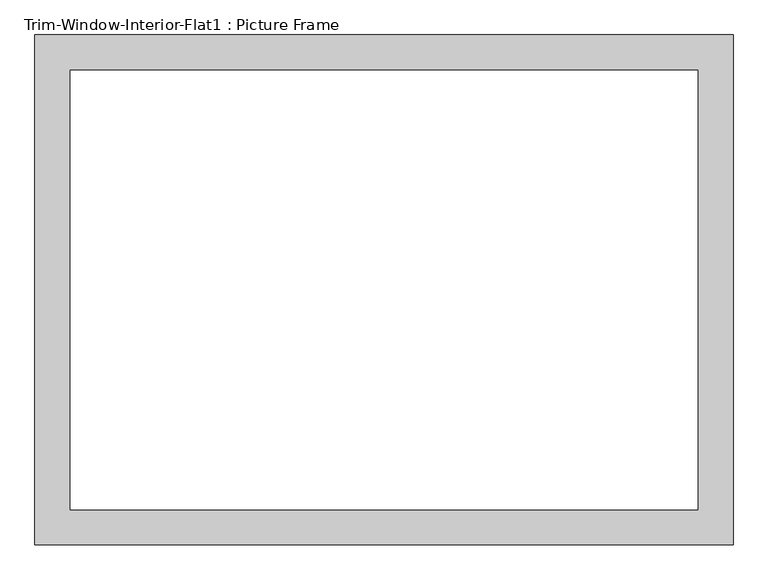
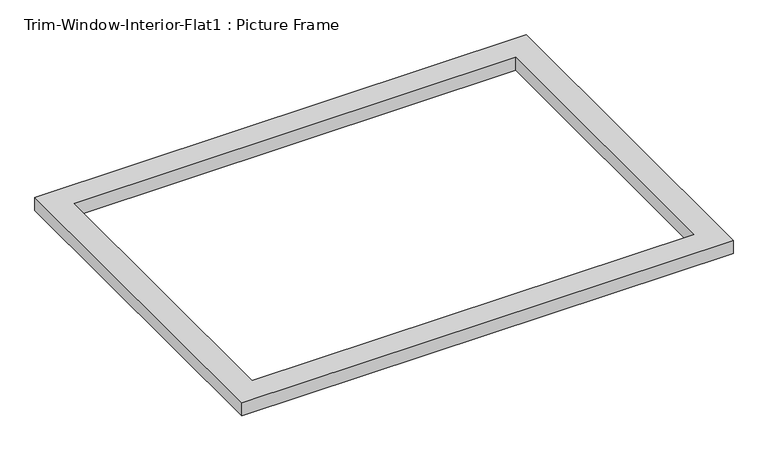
"""IFC4 building model written with IfcOpenShell, lengths in millimetres: proxy geometry, Trim-Window-Interior-Flat1 : Picture Frame."""

from ifc_helpers import new_model, si_unit, origin, origin_with_axes, place, context, project, spatial, polyline, outline, extrude, source, transform, mapped, element, save


def trim_window_interior_flat1_picture_frame_47f21718(model_context):
    return source(origin(), model_context, "Body", "SweptSolid", [
        extrude(outline(polyline([(565.15, -44.45), (-565.15, -44.45), (-565.15, 781.05), (565.15, 781.05), (565.15, -44.45)]), holes=[polyline([(508.0, 12.7), (508.0, 723.9), (-508.0, 723.9), (-508.0, 12.7), (508.0, 12.7)])]), origin_with_axes(), (0.0, 0.0, 1.0), 31.75),
    ])


if __name__ == "__main__":
    model = new_model("IFC4")
    model_context = context("Model", 3, world=origin())
    ifc_project = project(units=[si_unit("LENGTHUNIT", "METRE", prefix="MILLI")], contexts=[model_context])
    site = spatial("IfcSite", under=ifc_project)
    building = spatial("IfcBuilding", under=site)
    placement = place(None, origin())
    trim_window_interior_flat1_picture_frame_shape = trim_window_interior_flat1_picture_frame_47f21718(model_context)
    element("IfcBuildingElementProxy", 1, Name="Trim-Window-Interior-Flat1 : Picture Frame", ObjectType="Trim-Window-Interior-Flat1 : Picture Frame", at=placement, inside=building, context=model_context, shape_type="MappedRepresentation", body=[
        mapped(trim_window_interior_flat1_picture_frame_shape, transform((0.0, 0.0, 0.0), x_axis=(1.0, 0.0, 0.0), y_axis=(0.0, 1.0, 0.0), z_axis=(0.0, 0.0, 1.0))),
    ])
    save(model, "model.ifc")
